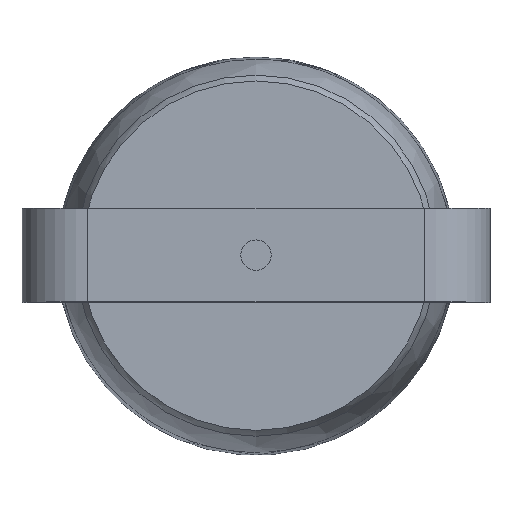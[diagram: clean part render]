
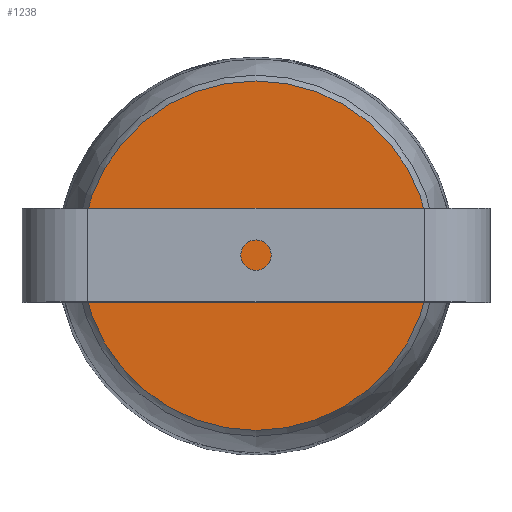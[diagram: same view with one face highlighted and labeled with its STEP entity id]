
A CAD part, top view. The second image highlights one B-rep face of the part: STEP entity #1238.
In plain terms, the highlighted planar face has unit normal (0, 0, 1) as drawn and (0, -1, 0) by its records, which use the part's own axes.
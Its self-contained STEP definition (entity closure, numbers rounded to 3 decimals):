
#149=CIRCLE('',#1475,74.58);
#215=FACE_OUTER_BOUND('',#294,.T.);
#294=EDGE_LOOP('',(#1133));
#614=VERTEX_POINT('',#2501);
#786=EDGE_CURVE('',#614,#614,#149,.T.);
#1133=ORIENTED_EDGE('',*,*,#786,.T.);
#1172=PLANE('',#1476);
#1238=ADVANCED_FACE('',(#215),#1172,.T.);
#1475=AXIS2_PLACEMENT_3D('',#2502,#1841,#1842);
#1476=AXIS2_PLACEMENT_3D('',#2506,#1843,#1844);
#1841=DIRECTION('center_axis',(0.,-1.,0.));
#1842=DIRECTION('ref_axis',(1.,0.,0.));
#1843=DIRECTION('center_axis',(0.,-1.,0.));
#1844=DIRECTION('ref_axis',(0.,0.,-1.));
#2501=CARTESIAN_POINT('',(0.,-109.8,74.58));
#2502=CARTESIAN_POINT('Origin',(0.,-109.8,0.));
#2506=CARTESIAN_POINT('Origin',(0.,-109.8,0.));
